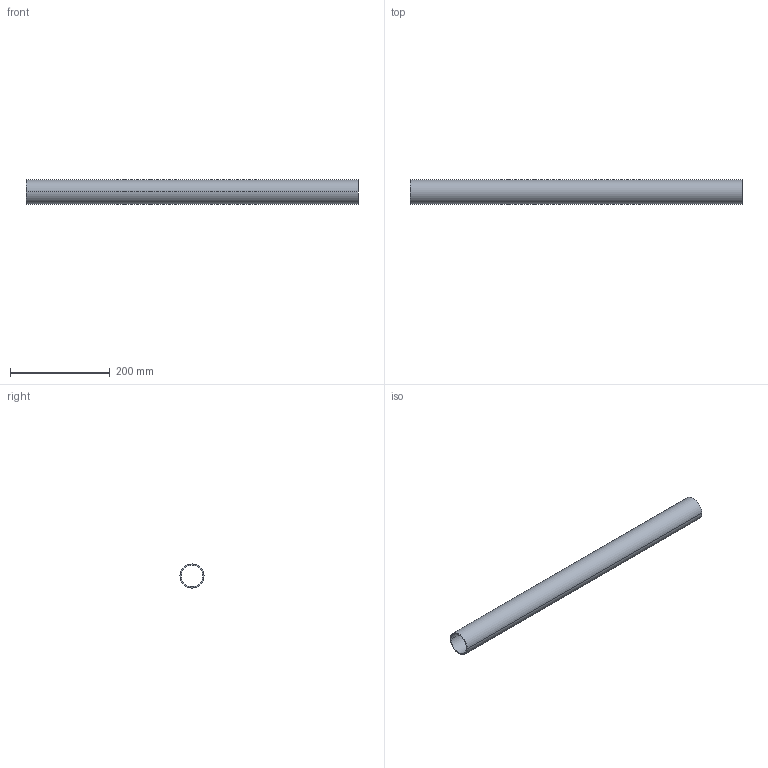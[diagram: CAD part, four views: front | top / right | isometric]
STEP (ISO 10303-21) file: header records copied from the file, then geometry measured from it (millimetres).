
FILE_DESCRIPTION (( 'STEP AP214' ), '1' );
FILE_NAME ('CCJ029-REP.357 - MAIN COURANTE PLATEFORME INTERMEDIAIRE FILE 4.STEP', '2025-11-04T10:53:34', ( '' ), ( '' ), 'SwSTEP 2.0', 'SolidWorks 2021', '' );
FILE_SCHEMA (( 'AUTOMOTIVE_DESIGN' ));
Length unit declared in the file: millimetre
Products named in the file (1): CCJ029-REP.357 - MAIN COURANTE PLATEFORME INTERMEDIAIRE FILE 4
Bounding box: 665 x 48.3 x 48.3 mm (x, y, z)
Volume: 239208.7 mm3; surface area: 192086.4 mm2
Topology: 1 solids, 1 shells, 6 faces, 12 edges, 8 vertices
Faces by surface type: cylinder 4, plane 2
Entity records: 202 total; most frequent: DIRECTION 34, CARTESIAN_POINT 27, ORIENTED_EDGE 24, AXIS2_PLACEMENT_3D 15, EDGE_CURVE 12, VERTEX_POINT 8, CIRCLE 8, EDGE_LOOP 8
